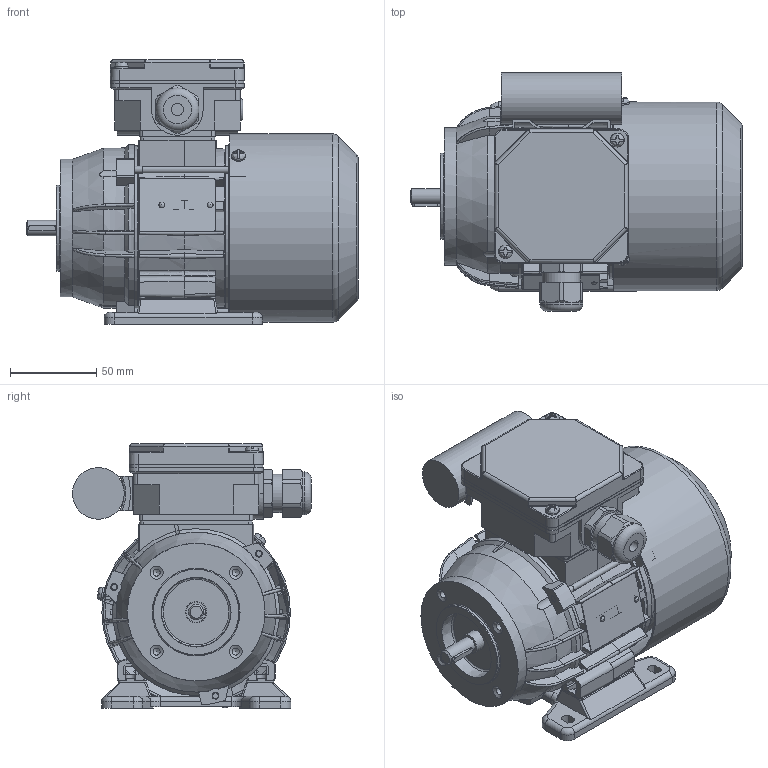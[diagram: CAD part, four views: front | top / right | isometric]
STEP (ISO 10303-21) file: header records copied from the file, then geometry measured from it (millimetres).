
FILE_DESCRIPTION( ( 'Unknown' ), '1' );
FILE_NAME( 'G:/Poczta Tk-1/STP/w.m.56/SEh56/SE(M)Lh56-B2.stp', 'Unknown', ( 'K. Szlosek' ), ( 'BESEL S.A.' ), 'PSStep 17.0.49', 'Unknown', ' ' );
FILE_SCHEMA( ( 'AUTOMOTIVE_DESIGN { 1 0 10303 214 1 1 1 1 }' ) );
Length unit declared in the file: millimetre
Products named in the file (32): Assem1; K4-2320 Uszczelka nr 1 Sh71,80; K3-9987 kadłub ze stojanem Sh56-B; K3-2193 Tarcza łożyskowa P Sg56-2..; K3-9990 wał Sh56-B; K2-0860 Pokrywka skrzynki zaciskowej; Wpust A3x3x16; K3-2977 Osłona przewietrznika Sg56; K4-2820 Uszczelka nr 2 Sh71,80; Wkręt samogwintujący M4x8; Wkręt samogwintujący M4x16; K2-0879 Przewietrznik Sg56; Nitokołek A 2x6; K3-9440 Podstawa  skrzynki zaciskowej SEhR71-D; K4-0898 Tulejka uszczelniająca; K3-1974 Uchwyt kondensatora (mały); Kondensator bb 8uF; K1-0533 Tarcza kołnierzowa B14_2 SKg56-..2; K1-0484 Łapa Sg56-.. w. robocza; Śruba ściągająca E_M4x75; Tabliczka znamionowa 32x44; Dławnica M20x1,5; Łożysko 6201
Assembly tree (47 placements, depth 2):
  Assem1
    K4-2320 Uszczelka nr 1 Sh71,80
    K3-9987 kadłub ze stojanem Sh56-B
    K3-2193 Tarcza łożyskowa P Sg56-2..
    K3-9990 wał Sh56-B
    K2-0860 Pokrywka skrzynki zaciskowej
    Wpust A3x3x16
    K3-2977 Osłona przewietrznika Sg56
    K4-2820 Uszczelka nr 2 Sh71,80
    Wkręt samogwintujący M4x8  x3
    Wkręt samogwintujący M4x16  x2
    K2-0879 Przewietrznik Sg56
    Nitokołek A 2x6  x2
    K3-9440 Podstawa  skrzynki zaciskowej SEhR71-D
    K4-0898 Tulejka uszczelniająca
    K3-1974 Uchwyt kondensatora (mały)
    Kondensator bb 8uF
    K1-0533 Tarcza kołnierzowa B14_2 SKg56-..2
    K1-0484 Łapa Sg56-.. w. robocza
    Śruba ściągająca E_M4x75  x3
    Tabliczka znamionowa 32x44
    Dławnica M20x1,5
    Łożysko 6201  x2
    Łożysko 6201  x2
    Łożysko 6201  x2
    Łożysko 6201  x2
    Łożysko 6201  x2
    Łożysko 6201  x2
    Łożysko 6201  x2
    Łożysko 6201  x2
    Łożysko 6201  x2
    Łożysko 6201  x2
Bounding box: 193 x 138.82 x 154 mm (x, y, z)
Volume: 500278.9 mm3; surface area: 326145.1 mm2
Topology: 47 solids, 63 shells, 1978 faces, 5357 edges, 3464 vertices
Faces by surface type: plane 1027, cylinder 579, cone 132, torus 112, bspline 94, sphere 34
Full cylindrical faces by diameter (mm): 2 x2, 2.4 x2, 3 x1, 3.242 x3, 3.5 x2, 3.7 x10, 4 x8, 4.134 x4, 4.5 x4, 4.6 x1, 4.8 x4, 5 x4, 5.8 x4, 6.5 x1, 7 x4, 8 x6, 9 x1, 10 x2, 10.9 x1, 11 x1, 11.5 x1, 11.8 x2, 12 x4, 12.4 x2, 15.5 x1, 16 x1, 16.1 x1, 17 x2, 18 x1, 18.38 x1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
Entity records: 80856 total; most frequent: CARTESIAN_POINT 21620, ORIENTED_EDGE 9308, DIRECTION 9274, EDGE_CURVE 4654, AXIS2_PLACEMENT_3D 3441, VERTEX_POINT 3150, LINE 2392, VECTOR 2392
